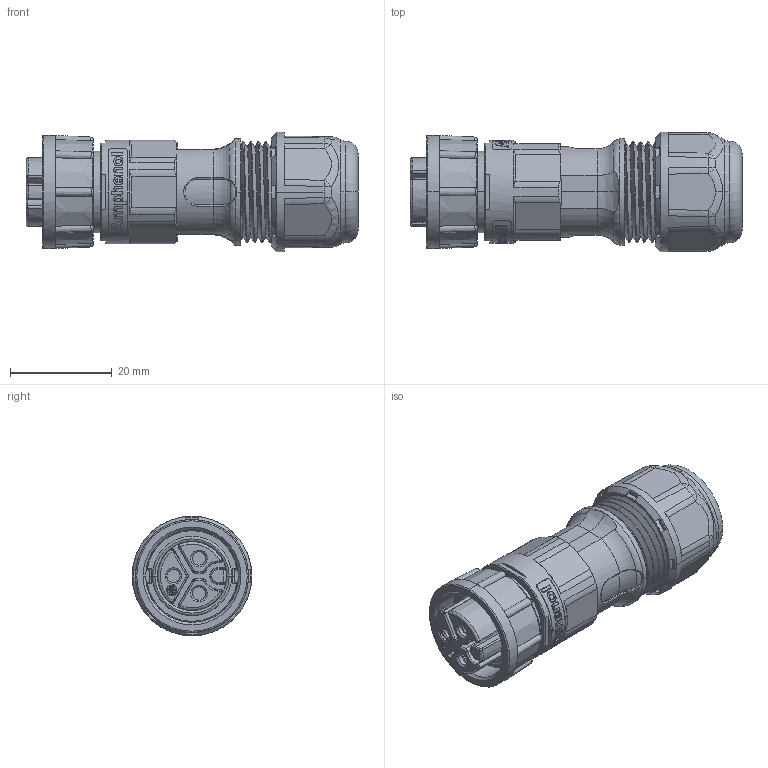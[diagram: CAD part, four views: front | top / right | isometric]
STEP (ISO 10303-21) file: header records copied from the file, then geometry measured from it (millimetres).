
FILE_DESCRIPTION((''),'2;1');
FILE_NAME('PWC-XXBFFB-LL7XPP_SW0002','2018-11-10T',('K140025'),(''),'PRO/ENGINEER BY PARAMETRIC TECHNOLOGY CORPORATION, 2013050','PRO/ENGINEER BY PARAMETRIC TECHNOLOGY CORPORATION, 2013050','');
FILE_SCHEMA(('CONFIG_CONTROL_DESIGN'));
Products named in the file (1): PWC-XXBFFB-LL7XPP_SW0002
Bounding box: 65.2 x 23.48 x 23.48 mm (x, y, z)
Volume: 14575.7 mm3; surface area: 12394.6 mm2
Topology: 2 solids, 4 shells, 965 faces, 2460 edges, 1558 vertices
Faces by surface type: plane 338, cylinder 186, bspline 171, cone 107, extrusion 79, torus 72, sphere 12
Entity records: 54019 total; most frequent: CARTESIAN_POINT 30394, ORIENTED_EDGE 4920, DIRECTION 3723, EDGE_CURVE 2460, VERTEX_POINT 1558, AXIS2_PLACEMENT_3D 1389, EDGE_LOOP 1032, B_SPLINE_CURVE_WITH_KNOTS 999
